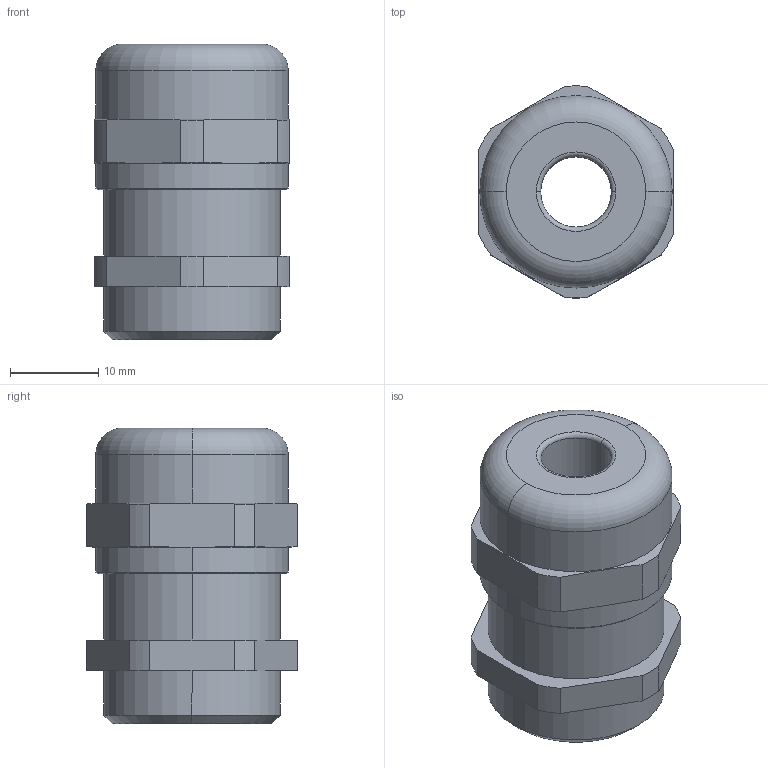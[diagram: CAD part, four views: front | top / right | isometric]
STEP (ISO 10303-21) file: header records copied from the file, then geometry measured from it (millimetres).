
FILE_DESCRIPTION (( 'STEP AP203' ), '1' );
FILE_NAME ('50.620 M-R.STEP', '2005-10-05T07:24:54', ( ' ' ), ( '' ), 'SwSTEP 2.0', 'SolidWorks 2005143', '' );
FILE_SCHEMA (( 'CONFIG_CONTROL_DESIGN' ));
Length unit declared in the file: millimetre
Products named in the file (1): 50.620 M-R
Bounding box: 22 x 23.98 x 33.5 mm (x, y, z)
Volume: 10205.3 mm3; surface area: 3882.8 mm2
Topology: 1 solids, 1 shells, 88 faces, 228 edges, 148 vertices
Faces by surface type: plane 54, cylinder 22, cone 8, torus 4
Entity records: 2777 total; most frequent: CARTESIAN_POINT 521, ORIENTED_EDGE 456, DIRECTION 446, EDGE_CURVE 228, VECTOR 156, LINE 156, VERTEX_POINT 148, AXIS2_PLACEMENT_3D 145
